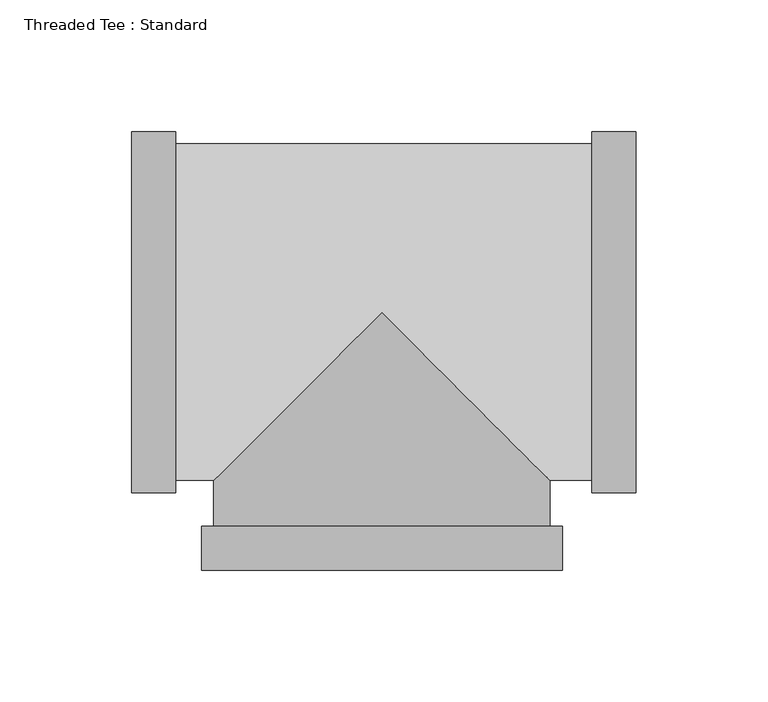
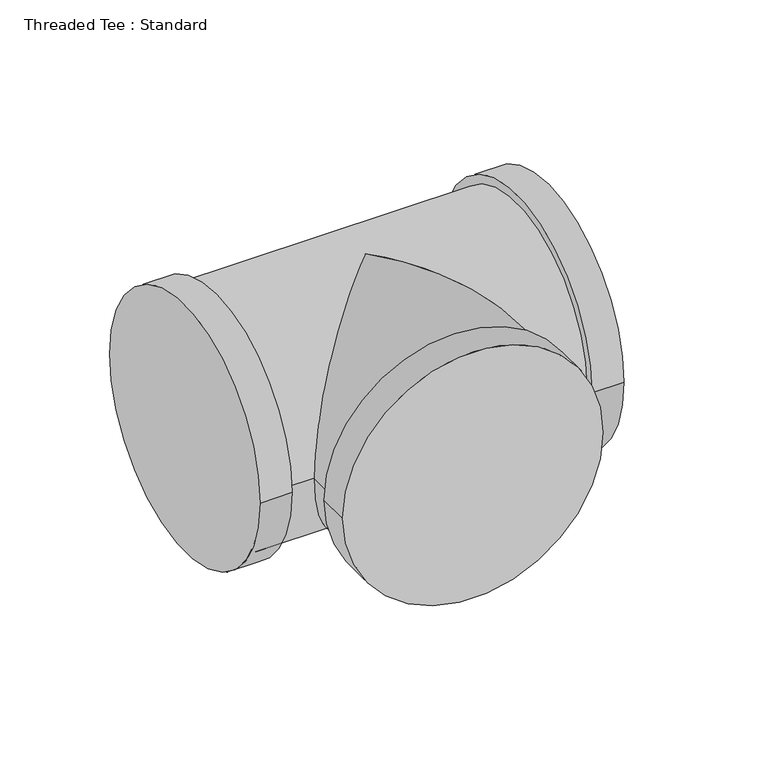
"""IFC4 building model written with IfcOpenShell, lengths in millimetres: pipe fitting geometry, Threaded Tee : Standard."""

import ifcopenshell
import ifcopenshell.guid

model = None  # the IFC model being written
_history = None  # IfcOwnerHistory: only IFC2X3 demands one
_inside = {}  # id of a spatial element -> (the spatial element, [elements in it])
_under = {}  # id of a project, library or spatial element -> (it, [spatial elements below it])
_declared = {}  # id of a project -> (the project, [libraries it declares])
_typed = {}  # id of a type object -> (the type object, [elements of that type])
_made_of = {}  # id of a material, layer set ... -> (it, [elements and type objects made of it])


def new_model(schema):
    """Start an empty IFC model of exactly this schema.

    Asked for "IFC4X3", IfcOpenShell would pick the latest addendum, in which some entities
    have other attributes; the version numbers below select the first issue.
    IFC2X3 requires an IfcOwnerHistory on every rooted entity: one is made here for all.
    """
    global model, _history
    if schema == "IFC4X3":
        model = ifcopenshell.file(schema_version=(4, 3, 0, 0))
    else:
        model = ifcopenshell.file(schema=schema)
    _inside.clear()
    _under.clear()
    _declared.clear()
    _typed.clear()
    _made_of.clear()
    _history = None
    if model.schema == "IFC2X3":
        org = make("IfcOrganization", Name="unknown")
        user = make(
            "IfcPersonAndOrganization",
            ThePerson=make("IfcPerson", FamilyName="unknown"),
            TheOrganization=org,
        )
        app = make(
            "IfcApplication",
            ApplicationDeveloper=org,
            Version="unknown",
            ApplicationFullName="unknown",
            ApplicationIdentifier="unknown",
        )
        _history = make(
            "IfcOwnerHistory",
            OwningUser=user,
            OwningApplication=app,
            ChangeAction="ADDED",
            CreationDate=0,
        )
    return model


def make(cls, **values):
    """One entity of the class cls with the attributes given. An attribute that is None is left unset."""
    return model.create_entity(
        cls, **{name: value for name, value in values.items() if value is not None}
    )


def rooted(cls, **values):
    """An entity with a GlobalId (a new one), such as an element, a storey or a relation."""
    return make(cls, GlobalId=ifcopenshell.guid.new(), OwnerHistory=_history, **values)


def si_unit(unit_type, name, prefix=None):
    """IfcSIUnit, for example si_unit("LENGTHUNIT", "METRE", prefix="MILLI")."""
    return make("IfcSIUnit", UnitType=unit_type, Prefix=prefix, Name=name)


def assignment(units):
    """IfcUnitAssignment: the units of a project."""
    return None if units is None else make("IfcUnitAssignment", Units=units)


def point(xyz):
    """IfcCartesianPoint."""
    return None if xyz is None else make("IfcCartesianPoint", Coordinates=xyz)


def direction(xyz):
    """IfcDirection."""
    return None if xyz is None else make("IfcDirection", DirectionRatios=xyz)


def frame(location, z_axis=None, x_axis=None):
    """IfcAxis2Placement3D, a coordinate frame: its origin and axes. An axis left out is left unset."""
    return make(
        "IfcAxis2Placement3D",
        Location=point(location),
        Axis=direction(z_axis),
        RefDirection=direction(x_axis),
    )


def origin():
    """The frame at (0, 0, 0) with its axes left unset."""
    return frame((0.0, 0.0, 0.0))


def place(relative_to, where):
    """IfcLocalPlacement: puts the frame where relative to a parent placement (None: the world)."""
    return make(
        "IfcLocalPlacement", PlacementRelTo=relative_to, RelativePlacement=where
    )


def context(
    kind, dimensions, precision=None, world=None, true_north=None, identifier=None
):
    """IfcGeometricRepresentationContext, for example the 3D "Model" context."""
    return make(
        "IfcGeometricRepresentationContext",
        ContextIdentifier=identifier,
        ContextType=kind,
        CoordinateSpaceDimension=dimensions,
        Precision=precision,
        WorldCoordinateSystem=world,
        TrueNorth=true_north,
    )


def project(units=None, contexts=None):
    """IfcProject with its units and contexts."""
    return rooted(
        "IfcProject",
        Name="project",
        RepresentationContexts=contexts,
        UnitsInContext=assignment(units),
    )


def spatial(cls, under=None, at=None, **own):
    """A site, building, storey or space (cls), placed at a placement, below another one or the project."""
    s = rooted(cls, ObjectPlacement=at, **own)
    if under is not None:
        _under.setdefault(under.id(), (under, []))[1].append(s)
    return s


def circle_curve(where, radius):
    """IfcCircle in the frame where."""
    return make("IfcCircle", Position=where, Radius=radius)


def ellipse_curve(where, semi_axis1, semi_axis2):
    """IfcEllipse in the frame where."""
    return make(
        "IfcEllipse", Position=where, SemiAxis1=semi_axis1, SemiAxis2=semi_axis2
    )


def shape(context_of_items, identifier, shape_type, items):
    """IfcShapeRepresentation: the items that make up one representation, for example the "Body"."""
    return make(
        "IfcShapeRepresentation",
        ContextOfItems=context_of_items,
        RepresentationIdentifier=identifier,
        RepresentationType=shape_type,
        Items=items,
    )


def source(mapping_origin, context_of_items, identifier, shape_type, items):
    """IfcRepresentationMap: a shape defined once, which mapped items show again and again."""
    return make(
        "IfcRepresentationMap",
        MappingOrigin=mapping_origin,
        MappedRepresentation=shape(context_of_items, identifier, shape_type, items),
    )


def transform(
    local_origin,
    x_axis=None,
    y_axis=None,
    z_axis=None,
    scale=None,
    scale2=None,
    scale3=None,
    uniform=True,
):
    """IfcCartesianTransformationOperator3D, or its non-uniform kind. x_axis, y_axis, z_axis: its Axis1, 2, 3."""
    if uniform:
        return make(
            "IfcCartesianTransformationOperator3D",
            Axis1=direction(x_axis),
            Axis2=direction(y_axis),
            LocalOrigin=point(local_origin),
            Scale=scale,
            Axis3=direction(z_axis),
        )
    return make(
        "IfcCartesianTransformationOperator3DnonUniform",
        Axis1=direction(x_axis),
        Axis2=direction(y_axis),
        LocalOrigin=point(local_origin),
        Scale=scale,
        Axis3=direction(z_axis),
        Scale2=scale2,
        Scale3=scale3,
    )


def mapped(mapping_source, mapping_target):
    """IfcMappedItem: shows the shape of a source again, moved by a transform."""
    return make(
        "IfcMappedItem", MappingSource=mapping_source, MappingTarget=mapping_target
    )


def made_of(thing, what):
    """Note that an element or type object is made of a material, layer set ...; save() writes the relation."""
    if what is not None:
        _made_of.setdefault(what.id(), (what, []))[1].append(thing)
    return thing


def element(
    cls,
    number,
    at=None,
    inside=None,
    cuts=None,
    type_object=None,
    material=None,
    context=None,
    identifier="Body",
    shape_type=None,
    held_by="IfcProductDefinitionShape",
    body=None,
    shapes=None,
    **own,
):
    """One element of the class cls, such as IfcWall. Its Tag is "e" and its number.

    at: its placement. inside: the storey or other place that contains it. cuts: it is an
    opening in that element (IfcRelVoidsElement). A single representation is given by context,
    identifier, shape_type and body (its items); several are given by shapes. held_by: the class
    of the entity that holds the representations. save() writes the other relations.
    """
    e = rooted(cls, Tag="e%d" % number, ObjectPlacement=at, **own)
    if body is not None:
        shapes = [shape(context, identifier, shape_type, body)]
    if shapes is not None:
        e.Representation = make(held_by, Representations=shapes)
    if inside is not None:
        _inside.setdefault(inside.id(), (inside, []))[1].append(e)
    if cuts is not None:
        rooted(
            "IfcRelVoidsElement", RelatingBuildingElement=cuts, RelatedOpeningElement=e
        )
    if type_object is not None:
        _typed.setdefault(type_object.id(), (type_object, []))[1].append(e)
    return made_of(e, material)


def aggregate(whole, parts):
    """IfcRelAggregates: a whole, such as a stair, and the parts it consists of."""
    return rooted("IfcRelAggregates", RelatingObject=whole, RelatedObjects=parts)


def save(model, path):
    """Write the relations noted so far, then the file.

    IfcRelAggregates (storeys below a building ...), IfcRelContainedInSpatialStructure (elements
    in a storey), IfcRelDefinesByType, IfcRelAssociatesMaterial and IfcRelDeclares: one each for
    every whole, place, type object, material and project.
    """
    for whole, parts in _under.values():
        aggregate(whole, parts)
    for where, things in _inside.values():
        rooted(
            "IfcRelContainedInSpatialStructure",
            RelatedElements=things,
            RelatingStructure=where,
        )
    for kind, things in _typed.values():
        rooted("IfcRelDefinesByType", RelatedObjects=things, RelatingType=kind)
    for what, things in _made_of.values():
        rooted("IfcRelAssociatesMaterial", RelatedObjects=things, RelatingMaterial=what)
    for by, libraries in _declared.values():
        rooted("IfcRelDeclares", RelatingContext=by, RelatedDefinitions=libraries)
    model.write(path)


def plane_surface(at):
    """IfcPlane: the flat surface through the origin of the frame at, square to its z axis."""
    return make("IfcPlane", Position=at)


def cylinder_surface(at, radius):
    """IfcCylindricalSurface: all points at the distance radius from the z axis of the frame at."""
    return make("IfcCylindricalSurface", Position=at, Radius=radius)


def advanced_brep(points, edges, surfaces, faces):
    """IfcAdvancedBrep: a solid bounded by faces that lie on surfaces and meet in shared edges.

    An edge is (start, end): straight between two places in points (the first is 0);
    or (start, end, curve); or (start, end, curve, False) where it runs against its curve.
    A face is (place in surfaces, loops), or (place, loops, False) where it looks against
    its surface's normal. A loop lists edges by number (the first is 1), with a minus sign
    where the edge is run from its end to its start. The first loop is the outer one.
    """
    corners = [point(p) for p in points]
    vertices = [make("IfcVertexPoint", VertexGeometry=c) for c in corners]
    made = []
    for start, end, *more in edges:
        made.append(
            make(
                "IfcEdgeCurve",
                EdgeStart=vertices[start],
                EdgeEnd=vertices[end],
                EdgeGeometry=more[0] if more else make("IfcPolyline", Points=[corners[start], corners[end]]),
                SameSense=more[1] if len(more) > 1 else True,
            )
        )
    hull = []
    for where, loops, *sense in faces:
        bounds = []
        for j, loop in enumerate(loops):
            ring = [make("IfcOrientedEdge", EdgeElement=made[abs(k) - 1], Orientation=k > 0) for k in loop]
            bounds.append(
                make(
                    "IfcFaceOuterBound" if j == 0 else "IfcFaceBound",
                    Bound=make("IfcEdgeLoop", EdgeList=ring),
                    Orientation=True,
                )
            )
        hull.append(make("IfcAdvancedFace", Bounds=bounds, FaceSurface=surfaces[where], SameSense=sense[0] if sense else True))
    return make("IfcAdvancedBrep", Outer=make("IfcClosedShell", CfsFaces=hull))


def threaded_tee_standard_9993dc0c(model_context):
    return source(origin(), model_context, "Body", "AdvancedBrep", [
        advanced_brep(
        [(-95.1745937, -68.6, 0.0), (-95.1745937, 68.6, 0.0), (-78.3745937, -68.6, 0.0), (-78.3745937, 68.6, 0.0), (-78.3745937, 63.93, 0.0), (-78.3745937, -63.93, 0.0), (79.8112813, 63.93, 0.0), (79.8112813, -63.93, 0.0), (63.93, -63.93, 0.0), (0.0, 0.0, -63.93), (-63.93, -63.93, 0.0), (0.0, 0.0, 63.93), (79.8112813, -68.6, 0.0), (79.8112813, 68.6, 0.0), (96.6112813, -68.6, 0.0), (96.6112813, 68.6, 0.0), (-63.93, -81.2479688, 0.0), (63.93, -81.2479688, 0.0), (-68.6, -81.2479688, 0.0), (68.6, -81.2479688, 0.0), (-68.6, -98.0479688, 0.0), (68.6, -98.0479688, 0.0)],
        [
            (0, 1, circle_curve(frame((-95.1745937, 0.0, 0.0), z_axis=(-1.0, 0.0, 0.0), x_axis=(0.0, 1.0, 0.0)), 68.6)),
            (1, 0, circle_curve(frame((-95.1745937, 0.0, 0.0), z_axis=(-1.0, 0.0, 0.0), x_axis=(0.0, 1.0, 0.0)), 68.6)),
            (2, 3, circle_curve(frame((-78.3745937, 0.0, 0.0), z_axis=(1.0, 0.0, 0.0), x_axis=(0.0, 1.0, 0.0)), 68.6)),
            (3, 2, circle_curve(frame((-78.3745937, 0.0, 0.0), z_axis=(1.0, 0.0, 0.0), x_axis=(0.0, 1.0, 0.0)), 68.6)),
            (4, 5, circle_curve(frame((-78.3745937, 0.0, 0.0), z_axis=(-1.0, 0.0, 0.0), x_axis=(0.0, 0.0, -1.0)), 63.93)),
            (5, 4, circle_curve(frame((-78.3745937, 0.0, 0.0), z_axis=(-1.0, 0.0, 0.0), x_axis=(0.0, 0.0, 1.0)), 63.93)),
            (0, 2),
            (3, 1),
            (4, 6),
            (6, 7, circle_curve(frame((79.8112813, 0.0, 0.0), z_axis=(-1.0, 0.0, 0.0), x_axis=(0.0, 0.0, -1.0)), 63.93)),
            (7, 8),
            (8, 9, ellipse_curve(frame((0.0, 0.0, 0.0), z_axis=(0.7071067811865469, 0.707106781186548, 0.0), x_axis=(0.7071067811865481, -0.7071067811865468, 0.0)), 90.410673, 63.93)),
            (9, 10, ellipse_curve(frame((0.0, 0.0, 0.0), z_axis=(-0.707106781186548, 0.7071067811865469, 0.0), x_axis=(0.7071067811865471, 0.7071067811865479, 0.0)), 90.410673, 63.93)),
            (10, 5),
            (10, 11, ellipse_curve(frame((0.0, 0.0, 0.0), z_axis=(-0.707106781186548, 0.7071067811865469, 0.0), x_axis=(0.7071067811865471, 0.7071067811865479, 0.0)), 90.410673, 63.93)),
            (11, 8, ellipse_curve(frame((0.0, 0.0, 0.0), z_axis=(0.7071067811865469, 0.707106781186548, 0.0), x_axis=(0.7071067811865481, -0.7071067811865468, 0.0)), 90.410673, 63.93)),
            (7, 6, circle_curve(frame((79.8112813, 0.0, 0.0), z_axis=(-1.0, 0.0, 0.0), x_axis=(0.0, 0.0, 1.0)), 63.93)),
            (12, 13, circle_curve(frame((79.8112813, 0.0, 0.0), z_axis=(-1.0, 0.0, 0.0), x_axis=(0.0, 1.0, 0.0)), 68.6)),
            (13, 12, circle_curve(frame((79.8112813, 0.0, 0.0), z_axis=(-1.0, 0.0, 0.0), x_axis=(0.0, 1.0, 0.0)), 68.6)),
            (14, 15, circle_curve(frame((96.6112813, 0.0, 0.0), z_axis=(1.0, 0.0, 0.0), x_axis=(0.0, 1.0, 0.0)), 68.6)),
            (15, 14, circle_curve(frame((96.6112813, 0.0, 0.0), z_axis=(1.0, 0.0, 0.0), x_axis=(0.0, 1.0, 0.0)), 68.6)),
            (12, 14),
            (15, 13),
            (10, 16),
            (16, 17, circle_curve(frame((0.0, -81.2479688, 0.0), z_axis=(0.0, 1.0, 0.0), x_axis=(1.0, 0.0, 0.0)), 63.93)),
            (17, 8),
            (17, 16, circle_curve(frame((0.0, -81.2479688, 0.0), z_axis=(0.0, 1.0, 0.0), x_axis=(1.0, 0.0, 0.0)), 63.93)),
            (18, 19, circle_curve(frame((0.0, -81.2479688, 0.0), z_axis=(0.0, 1.0, 0.0), x_axis=(1.0, 0.0, 0.0)), 68.6)),
            (19, 18, circle_curve(frame((0.0, -81.2479688, 0.0), z_axis=(0.0, 1.0, 0.0), x_axis=(1.0, 0.0, 0.0)), 68.6)),
            (20, 21, circle_curve(frame((0.0, -98.0479688, 0.0), z_axis=(0.0, -1.0, 0.0), x_axis=(1.0, 0.0, 0.0)), 68.6)),
            (21, 20, circle_curve(frame((0.0, -98.0479688, 0.0), z_axis=(0.0, -1.0, 0.0), x_axis=(1.0, 0.0, 0.0)), 68.6)),
            (18, 20),
            (21, 19),
        ],
        [
            plane_surface(frame((-95.1745937, 0.0, 0.0), z_axis=(-1.0, 0.0, 0.0), x_axis=(0.0, 0.0, 1.0))),
            plane_surface(frame((-78.3745937, 0.0, 0.0), z_axis=(1.0, 0.0, 0.0), x_axis=(0.0, 0.0, 1.0))),
            cylinder_surface(frame((-95.1745937, 0.0, 0.0), z_axis=(-1.0, 0.0, 0.0), x_axis=(0.0, 1.0, 0.0)), 68.6),
            cylinder_surface(frame((-78.3745937, 0.0, 0.0), z_axis=(1.0, 0.0, 0.0), x_axis=(0.0, 0.0, -1.0)), 63.93),
            cylinder_surface(frame((-78.3745937, 0.0, 0.0), z_axis=(1.0, 0.0, 0.0), x_axis=(0.0, 0.0, 1.0)), 63.93),
            plane_surface(frame((79.8112813, 0.0, 0.0), z_axis=(-1.0, 0.0, 0.0), x_axis=(0.0, 0.0, 1.0))),
            plane_surface(frame((96.6112813, 0.0, 0.0), z_axis=(1.0, 0.0, 0.0), x_axis=(0.0, 0.0, 1.0))),
            cylinder_surface(frame((79.8112813, 0.0, 0.0), z_axis=(-1.0, 0.0, 0.0), x_axis=(0.0, 1.0, 0.0)), 68.6),
            cylinder_surface(frame((0.0, 0.0, 0.0), z_axis=(0.0, 1.0, 0.0), x_axis=(1.0, 0.0, 0.0)), 63.93),
            plane_surface(frame((0.0, -81.2479688, 0.0), z_axis=(0.0, 1.0, 0.0), x_axis=(0.0, 0.0, 1.0))),
            plane_surface(frame((0.0, -98.0479688, 0.0), z_axis=(0.0, -1.0, 0.0), x_axis=(0.0, 0.0, 1.0))),
            cylinder_surface(frame((0.0, -81.2479688, 0.0), z_axis=(0.0, 1.0, 0.0), x_axis=(1.0, 0.0, 0.0)), 68.6),
        ],
        [
            (0, [[1, 2]]),
            (1, [[3, 4], [5, 6]]),
            (2, [[-1, 7, -4, 8]]),
            (2, [[-2, -8, -3, -7]]),
            (3, [[9, 10, 11, 12, 13, 14, -5]]),
            (4, [[-9, -6, -14, 15, 16, -11, 17]]),
            (5, [[18, 19], [-10, -17]]),
            (6, [[20, 21]]),
            (7, [[-18, 22, -21, 23]]),
            (7, [[-19, -23, -20, -22]]),
            (8, [[24, 25, 26, -16, -15]]),
            (8, [[-24, -13, -12, -26, 27]]),
            (9, [[28, 29], [-25, -27]]),
            (10, [[30, 31]]),
            (11, [[-28, 32, -31, 33]]),
            (11, [[-29, -33, -30, -32]]),
        ],
    ),
        advanced_brep(
        [(-78.3745937, 63.93, 0.0), (79.8112813, 63.93, 0.0), (79.8112813, -63.93, 0.0), (63.93, -63.93, 0.0), (0.0, 0.0, -63.93), (-63.93, -63.93, 0.0), (-78.3745937, -63.93, 0.0), (0.0, 0.0, 63.93), (-95.1745937, -68.6, 0.0), (-95.1745937, 68.6, 0.0), (-78.3745937, -68.6, 0.0), (-78.3745937, 68.6, 0.0), (79.8112813, -68.6, 0.0), (79.8112813, 68.6, 0.0), (96.6112813, -68.6, 0.0), (96.6112813, 68.6, 0.0), (-63.93, -81.2479688, 0.0), (63.93, -81.2479688, 0.0), (68.6, -98.0479688, 0.0), (-68.6, -98.0479688, 0.0), (68.6, -81.2479688, 0.0), (-68.6, -81.2479688, 0.0)],
        [
            (0, 1),
            (1, 2, circle_curve(frame((79.8112813, 0.0, 0.0), z_axis=(-1.0, 0.0, 0.0), x_axis=(0.0, 0.0, -1.0)), 63.93)),
            (2, 3),
            (3, 4, ellipse_curve(frame((0.0, 0.0, 0.0), z_axis=(0.7071067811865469, 0.707106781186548, 0.0), x_axis=(0.7071067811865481, -0.7071067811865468, 0.0)), 90.410673, 63.93)),
            (4, 5, ellipse_curve(frame((0.0, 0.0, 0.0), z_axis=(-0.707106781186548, 0.7071067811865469, 0.0), x_axis=(0.7071067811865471, 0.7071067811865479, 0.0)), 90.410673, 63.93)),
            (5, 6),
            (6, 0, circle_curve(frame((-78.3745937, 0.0, 0.0), z_axis=(1.0, 0.0, 0.0), x_axis=(0.0, 0.0, -1.0)), 63.93)),
            (0, 6, circle_curve(frame((-78.3745937, 0.0, 0.0), z_axis=(1.0, 0.0, 0.0), x_axis=(0.0, 0.0, 1.0)), 63.93)),
            (5, 7, ellipse_curve(frame((0.0, 0.0, 0.0), z_axis=(-0.707106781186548, 0.7071067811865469, 0.0), x_axis=(0.7071067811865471, 0.7071067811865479, 0.0)), 90.410673, 63.93)),
            (7, 3, ellipse_curve(frame((0.0, 0.0, 0.0), z_axis=(0.7071067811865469, 0.707106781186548, 0.0), x_axis=(0.7071067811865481, -0.7071067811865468, 0.0)), 90.410673, 63.93)),
            (2, 1, circle_curve(frame((79.8112813, 0.0, 0.0), z_axis=(-1.0, 0.0, 0.0), x_axis=(0.0, 0.0, 1.0)), 63.93)),
            (8, 9, circle_curve(frame((-95.1745937, 0.0, 0.0), z_axis=(-1.0, 0.0, 0.0), x_axis=(0.0, 1.0, 0.0)), 68.6)),
            (9, 8, circle_curve(frame((-95.1745937, 0.0, 0.0), z_axis=(-1.0, 0.0, 0.0), x_axis=(0.0, 1.0, 0.0)), 68.6)),
            (10, 11, circle_curve(frame((-78.3745937, 0.0, 0.0), z_axis=(1.0, 0.0, 0.0), x_axis=(0.0, 1.0, 0.0)), 68.6)),
            (11, 10, circle_curve(frame((-78.3745937, 0.0, 0.0), z_axis=(1.0, 0.0, 0.0), x_axis=(0.0, 1.0, 0.0)), 68.6)),
            (8, 10),
            (11, 9),
            (12, 13, circle_curve(frame((79.8112813, 0.0, 0.0), z_axis=(-1.0, 0.0, 0.0), x_axis=(0.0, 1.0, 0.0)), 68.6)),
            (13, 12, circle_curve(frame((79.8112813, 0.0, 0.0), z_axis=(-1.0, 0.0, 0.0), x_axis=(0.0, 1.0, 0.0)), 68.6)),
            (14, 15, circle_curve(frame((96.6112813, 0.0, 0.0), z_axis=(1.0, 0.0, 0.0), x_axis=(0.0, 1.0, 0.0)), 68.6)),
            (15, 14, circle_curve(frame((96.6112813, 0.0, 0.0), z_axis=(1.0, 0.0, 0.0), x_axis=(0.0, 1.0, 0.0)), 68.6)),
            (12, 14),
            (15, 13),
            (5, 16),
            (16, 17, circle_curve(frame((0.0, -81.2479688, 0.0), z_axis=(0.0, 1.0, 0.0), x_axis=(1.0, 0.0, 0.0)), 63.93)),
            (17, 3),
            (17, 16, circle_curve(frame((0.0, -81.2479688, 0.0), z_axis=(0.0, 1.0, 0.0), x_axis=(1.0, 0.0, 0.0)), 63.93)),
            (18, 19, circle_curve(frame((0.0, -98.0479688, 0.0), z_axis=(0.0, -1.0, 0.0), x_axis=(-1.0, 0.0, 0.0)), 68.6)),
            (19, 18, circle_curve(frame((0.0, -98.0479688, 0.0), z_axis=(0.0, -1.0, 0.0), x_axis=(-1.0, 0.0, 0.0)), 68.6)),
            (20, 21, circle_curve(frame((0.0, -81.2479688, 0.0), z_axis=(0.0, 1.0, 0.0), x_axis=(-1.0, 0.0, 0.0)), 68.6)),
            (21, 20, circle_curve(frame((0.0, -81.2479688, 0.0), z_axis=(0.0, 1.0, 0.0), x_axis=(-1.0, 0.0, 0.0)), 68.6)),
            (18, 20),
            (21, 19),
        ],
        [
            cylinder_surface(frame((-78.3745937, 0.0, 0.0), z_axis=(1.0, 0.0, 0.0), x_axis=(0.0, 0.0, -1.0)), 63.93),
            cylinder_surface(frame((-78.3745937, 0.0, 0.0), z_axis=(1.0, 0.0, 0.0), x_axis=(0.0, 0.0, 1.0)), 63.93),
            plane_surface(frame((-95.1745937, 0.0, 0.0), z_axis=(-1.0, 0.0, 0.0), x_axis=(0.0, 0.0, 1.0))),
            plane_surface(frame((-78.3745937, 0.0, 0.0), z_axis=(1.0, 0.0, 0.0), x_axis=(0.0, 0.0, 1.0))),
            cylinder_surface(frame((-95.1745937, 0.0, 0.0), z_axis=(-1.0, 0.0, 0.0), x_axis=(0.0, 1.0, 0.0)), 68.6),
            plane_surface(frame((79.8112813, 0.0, 0.0), z_axis=(-1.0, 0.0, 0.0), x_axis=(0.0, 0.0, 1.0))),
            plane_surface(frame((96.6112813, 0.0, 0.0), z_axis=(1.0, 0.0, 0.0), x_axis=(0.0, 0.0, 1.0))),
            cylinder_surface(frame((79.8112813, 0.0, 0.0), z_axis=(-1.0, 0.0, 0.0), x_axis=(0.0, 1.0, 0.0)), 68.6),
            cylinder_surface(frame((0.0, 0.0, 0.0), z_axis=(0.0, 1.0, 0.0), x_axis=(1.0, 0.0, 0.0)), 63.93),
            plane_surface(frame((0.0, -98.0479688, 0.0), z_axis=(0.0, -1.0, 0.0), x_axis=(0.0, 0.0, 1.0))),
            plane_surface(frame((0.0, -81.2479688, 0.0), z_axis=(0.0, 1.0, 0.0), x_axis=(0.0, 0.0, 1.0))),
            cylinder_surface(frame((0.0, -98.0479688, 0.0), z_axis=(0.0, -1.0, 0.0), x_axis=(-1.0, 0.0, 0.0)), 68.6),
        ],
        [
            (0, [[1, 2, 3, 4, 5, 6, 7]]),
            (1, [[-1, 8, -6, 9, 10, -3, 11]]),
            (2, [[12, 13]]),
            (3, [[14, 15], [-7, -8]]),
            (4, [[-12, 16, -15, 17]]),
            (4, [[-13, -17, -14, -16]]),
            (5, [[18, 19], [-2, -11]]),
            (6, [[20, 21]]),
            (7, [[-18, 22, -21, 23]]),
            (7, [[-19, -23, -20, -22]]),
            (8, [[24, 25, 26, -10, -9]]),
            (8, [[-24, -5, -4, -26, 27]]),
            (9, [[28, 29]]),
            (10, [[30, 31], [-25, -27]]),
            (11, [[-28, 32, -31, 33]]),
            (11, [[-29, -33, -30, -32]]),
        ],
    ),
    ])


if __name__ == "__main__":
    model = new_model("IFC4")
    model_context = context("Model", 3, world=origin())
    ifc_project = project(units=[si_unit("LENGTHUNIT", "METRE", prefix="MILLI")], contexts=[model_context])
    site = spatial("IfcSite", under=ifc_project)
    building = spatial("IfcBuilding", under=site)
    placement = place(None, origin())
    threaded_tee_standard_shape = threaded_tee_standard_9993dc0c(model_context)
    element("IfcPipeFitting", 1, ObjectType="Threaded Tee : Standard", at=placement, inside=building, context=model_context, shape_type="MappedRepresentation", body=[
        mapped(threaded_tee_standard_shape, transform((0.0, 0.0, 0.0), x_axis=(1.0, 0.0, 0.0), y_axis=(0.0, 1.0, 0.0), z_axis=(0.0, 0.0, 1.0))),
    ])
    save(model, "model.ifc")
